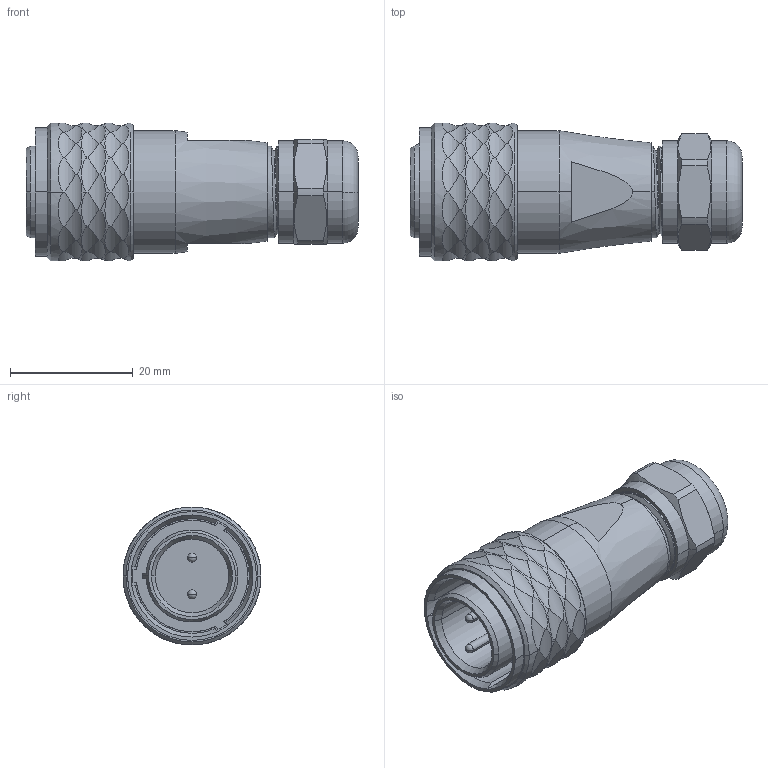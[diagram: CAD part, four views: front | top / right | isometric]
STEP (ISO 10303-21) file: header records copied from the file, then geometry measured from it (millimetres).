
FILE_DESCRIPTION((''),'2;1');
FILE_NAME('SF1610_P2','2017-11-25T',('Administrator'),(''),'PRO/ENGINEER BY PARAMETRIC TECHNOLOGY CORPORATION, 2013150','PRO/ENGINEER BY PARAMETRIC TECHNOLOGY CORPORATION, 2013150','');
FILE_SCHEMA(('CONFIG_CONTROL_DESIGN'));
Length unit declared in the file: millimetre
Products named in the file (1): SF1610_P2
Bounding box: 54.14 x 22.5 x 22.5 mm (x, y, z)
Volume: 13202.6 mm3; surface area: 7298.7 mm2
Topology: 2 solids, 2 shells, 246 faces, 683 edges, 440 vertices
Faces by surface type: cylinder 153, plane 46, cone 25, bspline 12, torus 6, sphere 4
Entity records: 15060 total; most frequent: CARTESIAN_POINT 9263, ORIENTED_EDGE 1354, DIRECTION 1002, EDGE_CURVE 677, VERTEX_POINT 440, AXIS2_PLACEMENT_3D 413, B_SPLINE_CURVE_WITH_KNOTS 322, EDGE_LOOP 259
